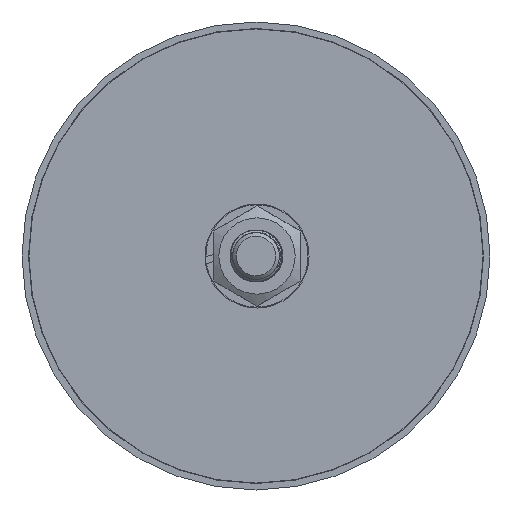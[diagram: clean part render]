
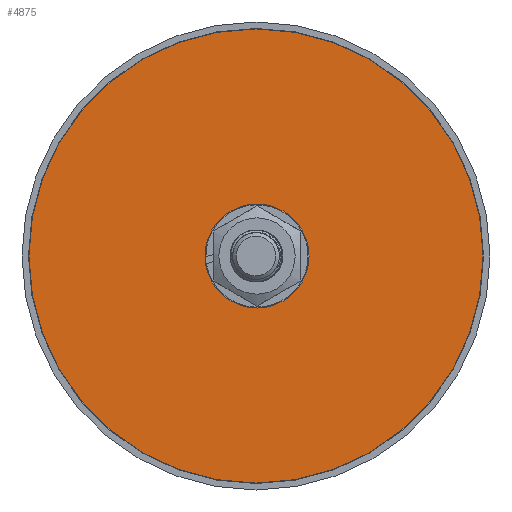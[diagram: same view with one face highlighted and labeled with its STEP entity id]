
A CAD part, front view. The second image highlights one B-rep face of the part: STEP entity #4875.
In plain terms, the highlighted planar face has unit normal (0, -1, 0).
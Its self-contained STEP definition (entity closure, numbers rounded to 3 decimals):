
#1022=FACE_BOUND('',#1730,.T.);
#1145=B_SPLINE_CURVE_WITH_KNOTS('',3,(#10455,#10456,#10457,#10458,#10459,
#10460,#10461),.UNSPECIFIED.,.F.,.F.,(4,3,4),(-0.446,-0.17,
0.),.UNSPECIFIED.);
#1147=B_SPLINE_CURVE_WITH_KNOTS('',3,(#10685,#10686,#10687,#10688,#10689,
#10690,#10691),.UNSPECIFIED.,.F.,.F.,(4,3,4),(-0.445,-0.155,
0.),.UNSPECIFIED.);
#1431=FACE_OUTER_BOUND('',#1729,.T.);
#1729=EDGE_LOOP('',(#3851));
#1730=EDGE_LOOP('',(#3852,#3853,#3854,#3855));
#1988=CIRCLE('',#5229,3.);
#1989=CIRCLE('',#5231,2.7);
#1990=CIRCLE('',#5233,26.2);
#2285=VERTEX_POINT('',#10065);
#2286=VERTEX_POINT('',#10151);
#2287=VERTEX_POINT('',#10366);
#2288=VERTEX_POINT('',#10463);
#2289=VERTEX_POINT('',#10693);
#2859=EDGE_CURVE('',#2285,#2286,#1988,.T.);
#2862=EDGE_CURVE('',#2287,#2285,#1145,.T.);
#2864=EDGE_CURVE('',#2288,#2287,#1989,.T.);
#2865=EDGE_CURVE('',#2286,#2288,#1147,.T.);
#2866=EDGE_CURVE('',#2289,#2289,#1990,.T.);
#3851=ORIENTED_EDGE('',*,*,#2866,.T.);
#3852=ORIENTED_EDGE('',*,*,#2862,.F.);
#3853=ORIENTED_EDGE('',*,*,#2864,.F.);
#3854=ORIENTED_EDGE('',*,*,#2865,.F.);
#3855=ORIENTED_EDGE('',*,*,#2859,.F.);
#4736=PLANE('',#5235);
#4875=ADVANCED_FACE('',(#1431,#1022),#4736,.F.);
#5229=AXIS2_PLACEMENT_3D('',#10152,#5870,#5871);
#5231=AXIS2_PLACEMENT_3D('',#10552,#5874,#5875);
#5233=AXIS2_PLACEMENT_3D('',#10694,#5878,#5879);
#5235=AXIS2_PLACEMENT_3D('',#10697,#5882,#5883);
#5870=DIRECTION('center_axis',(0.,-1.,0.));
#5871=DIRECTION('ref_axis',(-1.,0.,0.));
#5874=DIRECTION('center_axis',(0.,-1.,0.));
#5875=DIRECTION('ref_axis',(0.,0.,
-1.));
#5878=DIRECTION('center_axis',(0.,-1.,0.));
#5879=DIRECTION('ref_axis',(-1.,0.,0.));
#5882=DIRECTION('center_axis',(0.,1.,0.));
#5883=DIRECTION('ref_axis',(1.,0.,0.));
#10065=CARTESIAN_POINT('',(1.191,-71.108,-1.486));
#10151=CARTESIAN_POINT('',(-1.031,-71.108,-5.617));
#10152=CARTESIAN_POINT('Origin',(1.728,-71.108,-4.438));
#10366=CARTESIAN_POINT('',(4.376,-71.108,-3.913));
#10455=CARTESIAN_POINT('Ctrl Pts',(4.376,-71.108,-3.913));
#10456=CARTESIAN_POINT('Ctrl Pts',(4.262,-71.108,-3.001));
#10457=CARTESIAN_POINT('Ctrl Pts',(3.652,-71.108,-2.17));
#10458=CARTESIAN_POINT('Ctrl Pts',(2.836,-71.108,-1.765));
#10459=CARTESIAN_POINT('Ctrl Pts',(2.335,-71.108,-1.517));
#10460=CARTESIAN_POINT('Ctrl Pts',(1.756,-71.108,-1.428));
#10461=CARTESIAN_POINT('Ctrl Pts',(1.193,-71.108,-1.491));
#10463=CARTESIAN_POINT('',(2.749,-71.108,-6.937));
#10552=CARTESIAN_POINT('Origin',(1.728,-71.108,-4.438));
#10685=CARTESIAN_POINT('Ctrl Pts',(-1.031,-71.108,
-5.617));
#10686=CARTESIAN_POINT('Ctrl Pts',(-0.594,-71.108,
-6.481));
#10687=CARTESIAN_POINT('Ctrl Pts',(0.292,-71.108,
-7.109));
#10688=CARTESIAN_POINT('Ctrl Pts',(1.243,-71.108,-7.208));
#10689=CARTESIAN_POINT('Ctrl Pts',(1.752,-71.108,-7.261));
#10690=CARTESIAN_POINT('Ctrl Pts',(2.28,-71.108,-7.162));
#10691=CARTESIAN_POINT('Ctrl Pts',(2.747,-71.108,-6.934));
#10693=CARTESIAN_POINT('',(27.928,-71.108,-4.438));
#10694=CARTESIAN_POINT('Origin',(1.728,-71.108,-4.438));
#10697=CARTESIAN_POINT('Origin',(1.728,-71.108,-4.438));
